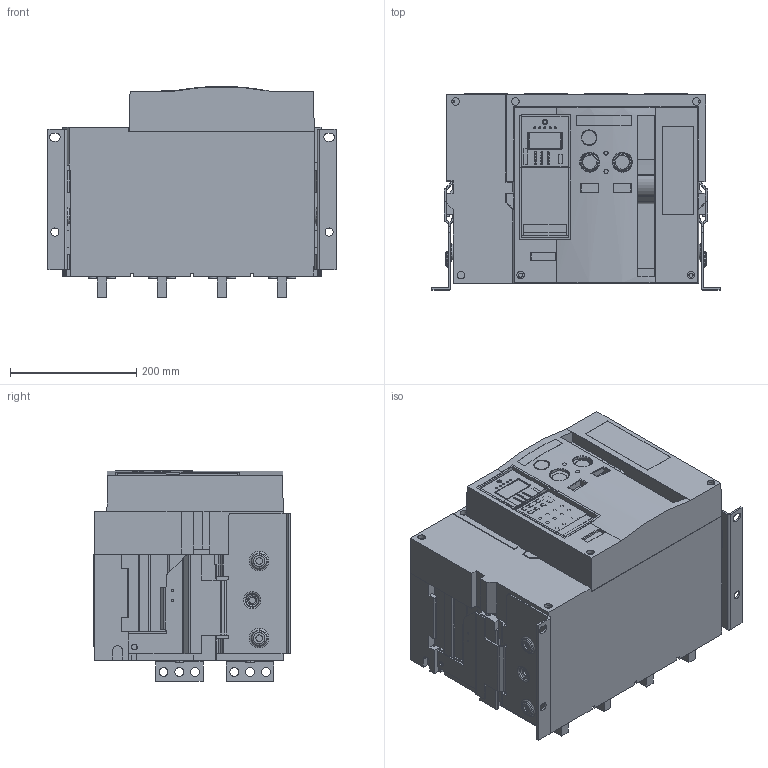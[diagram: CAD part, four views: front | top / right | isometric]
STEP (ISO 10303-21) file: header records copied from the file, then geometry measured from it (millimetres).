
FILE_DESCRIPTION (( 'STEP AP214' ), '1' );
FILE_NAME ('OptiMat A-S2-B-2000-4P-F-V.STEP', '2023-07-31T11:28:34', ( '' ), ( '' ), 'SwSTEP 2.0', 'SolidWorks 2018', '' );
FILE_SCHEMA (( 'AUTOMOTIVE_DESIGN' ));
Length unit declared in the file: millimetre
Products named in the file (1): OptiMat A-S2-B-2000-4P-F-V
Bounding box: 456 x 310.5 x 333.81 mm (x, y, z)
Volume: 30721771.9 mm3; surface area: 1543844.2 mm2
Topology: 4 solids, 23 shells, 3232 faces, 8695 edges, 5676 vertices
Faces by surface type: plane 1853, cylinder 1062, torus 182, cone 127, bspline 8
Entity records: 141879 total; most frequent: CARTESIAN_POINT 23668, DIRECTION 17648, ORIENTED_EDGE 17386, EDGE_CURVE 8693, AXIS2_PLACEMENT_3D 6047, VERTEX_POINT 5676, LINE 5554, VECTOR 5554
